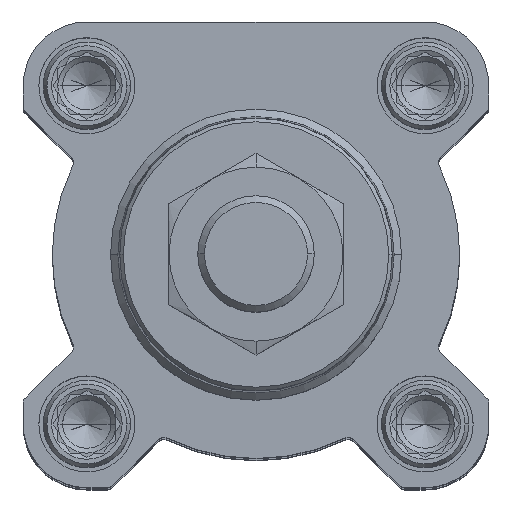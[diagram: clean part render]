
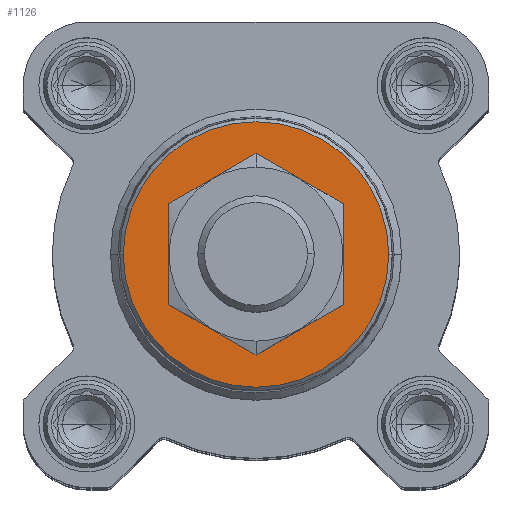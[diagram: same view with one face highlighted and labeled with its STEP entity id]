
A CAD part, top view. The second image highlights one B-rep face of the part: STEP entity #1126.
In plain terms, the highlighted planar face has unit normal (0, 0, 1).
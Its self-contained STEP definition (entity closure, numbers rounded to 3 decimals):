
#628 = AXIS2_PLACEMENT_3D ( 'NONE', #16728, #13199, #12082 ) ;
#841 = ORIENTED_EDGE ( 'NONE', *, *, #8912, .F. ) ;
#868 = VERTEX_POINT ( 'NONE', #1596 ) ;
#930 = CARTESIAN_POINT ( 'NONE',  ( 0., 0., 26.8 ) ) ;
#1126 = ADVANCED_FACE ( 'NONE', ( #14713, #4101 ), #7246, .F. ) ;
#1150 = CARTESIAN_POINT ( 'NONE',  ( -10., 0., 26.8 ) ) ;
#1596 = CARTESIAN_POINT ( 'NONE',  ( 10., 0., 26.8 ) ) ;
#2085 = DIRECTION ( 'NONE',  ( 0., 0., -1. ) ) ;
#2144 = DIRECTION ( 'NONE',  ( 0., 0., -1. ) ) ;
#2150 = CARTESIAN_POINT ( 'NONE',  ( 0., 0., 26.8 ) ) ;
#2573 = VERTEX_POINT ( 'NONE', #15619 ) ;
#2656 = CIRCLE ( 'NONE', #17203, 10. ) ;
#2696 = EDGE_CURVE ( 'NONE', #868, #17045, #12717, .T. ) ;
#3695 = AXIS2_PLACEMENT_3D ( 'NONE', #930, #2144, #8616 ) ;
#3999 = AXIS2_PLACEMENT_3D ( 'NONE', #2150, #8326, #14495 ) ;
#4101 = FACE_BOUND ( 'NONE', #6654, .T. ) ;
#4568 = ORIENTED_EDGE ( 'NONE', *, *, #16399, .T. ) ;
#4671 = DIRECTION ( 'NONE',  ( 0., 0., -1. ) ) ;
#5074 = AXIS2_PLACEMENT_3D ( 'NONE', #8911, #4671, #10727 ) ;
#5183 = EDGE_CURVE ( 'NONE', #2573, #13307, #5976, .T. ) ;
#5976 = CIRCLE ( 'NONE', #3695, 18.242 ) ;
#6654 = EDGE_LOOP ( 'NONE', ( #4568, #8831 ) ) ;
#7246 = PLANE ( 'NONE',  #628 ) ;
#7792 = CARTESIAN_POINT ( 'NONE',  ( -18.242, 0., 26.8 ) ) ;
#8326 = DIRECTION ( 'NONE',  ( 0., 0., -1. ) ) ;
#8616 = DIRECTION ( 'NONE',  ( -1., 0., 0. ) ) ;
#8831 = ORIENTED_EDGE ( 'NONE', *, *, #2696, .T. ) ;
#8911 = CARTESIAN_POINT ( 'NONE',  ( 0., 0., 26.8 ) ) ;
#8912 = EDGE_CURVE ( 'NONE', #13307, #2573, #10897, .T. ) ;
#10727 = DIRECTION ( 'NONE',  ( -1., 0., 0. ) ) ;
#10897 = CIRCLE ( 'NONE', #5074, 18.242 ) ;
#11296 = EDGE_LOOP ( 'NONE', ( #841, #15996 ) ) ;
#11493 = DIRECTION ( 'NONE',  ( -1., 0., 0. ) ) ;
#12082 = DIRECTION ( 'NONE',  ( 0., -1., 0. ) ) ;
#12717 = CIRCLE ( 'NONE', #3999, 10. ) ;
#13199 = DIRECTION ( 'NONE',  ( 0., 0., -1. ) ) ;
#13307 = VERTEX_POINT ( 'NONE', #7792 ) ;
#14495 = DIRECTION ( 'NONE',  ( -1., 0., 0. ) ) ;
#14713 = FACE_OUTER_BOUND ( 'NONE', #11296, .T. ) ;
#15619 = CARTESIAN_POINT ( 'NONE',  ( 18.242, 0., 26.8 ) ) ;
#15996 = ORIENTED_EDGE ( 'NONE', *, *, #5183, .F. ) ;
#16399 = EDGE_CURVE ( 'NONE', #17045, #868, #2656, .T. ) ;
#16728 = CARTESIAN_POINT ( 'NONE',  ( 0., 0., 26.8 ) ) ;
#17045 = VERTEX_POINT ( 'NONE', #1150 ) ;
#17203 = AXIS2_PLACEMENT_3D ( 'NONE', #18981, #2085, #11493 ) ;
#18981 = CARTESIAN_POINT ( 'NONE',  ( 0., 0., 26.8 ) ) ;
